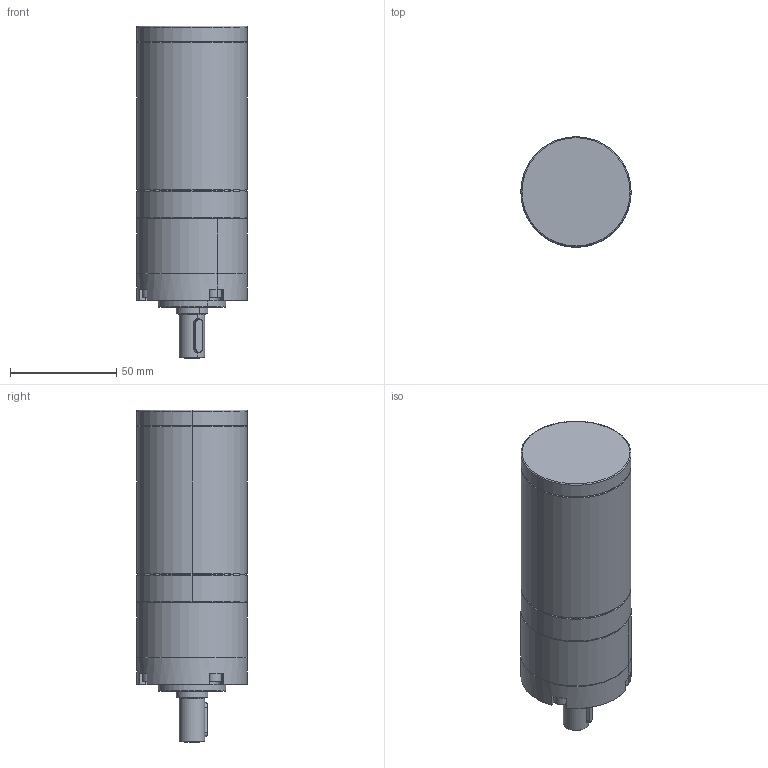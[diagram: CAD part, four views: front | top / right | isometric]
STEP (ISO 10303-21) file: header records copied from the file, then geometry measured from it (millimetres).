
FILE_DESCRIPTION (( 'STEP AP203' ), '1' );
FILE_NAME ('52BLD熬厒掀珨撰淕儂.STEP', '2021-07-16T02:50:27', ( '' ), ( '' ), 'SwSTEP 2.0', 'SolidWorks 2021', '' );
FILE_SCHEMA (( 'CONFIG_CONTROL_DESIGN' ));
Length unit declared in the file: millimetre
Products named in the file (3): 52PN珨撰; 52; 52BLD熬厒掀珨撰淕儂
Assembly tree (2 placements, depth 2):
  52BLD熬厒掀珨撰淕儂
    52
    52PN珨撰
Bounding box: 52 x 52 x 156.6 mm (x, y, z)
Volume: 275458 mm3; surface area: 32586.1 mm2
Topology: 2 solids, 2 shells, 162 faces, 378 edges, 225 vertices
Faces by surface type: plane 59, cone 46, cylinder 45, bspline 10, torus 2
Entity records: 5151 total; most frequent: CARTESIAN_POINT 1190, DIRECTION 806, ORIENTED_EDGE 736, EDGE_CURVE 368, AXIS2_PLACEMENT_3D 305, VERTEX_POINT 225, LINE 196, VECTOR 196
